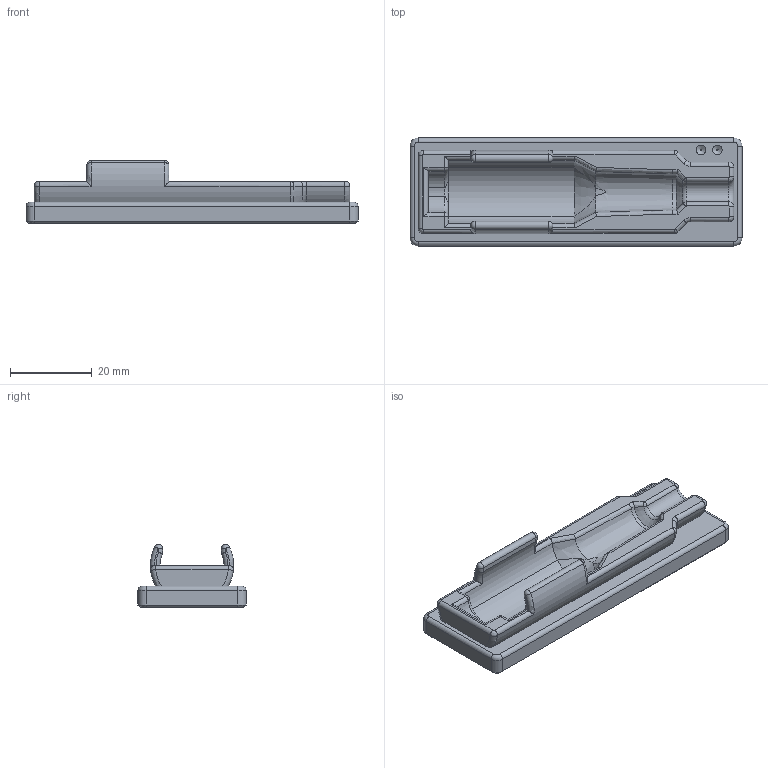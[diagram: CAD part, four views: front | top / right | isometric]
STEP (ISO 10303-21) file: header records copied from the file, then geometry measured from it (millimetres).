
FILE_DESCRIPTION(('Open CASCADE Model'),'2;1');
FILE_NAME('Open CASCADE Shape Model','2026-10-12T20:44:00',('Author'),( 'Open CASCADE'),'Open CASCADE STEP processor 8.0','build123d', 'Unknown');
FILE_SCHEMA(('AUTOMOTIVE_DESIGN { 1 0 10303 214 1 1 1 1 }'));
Length unit declared in the file: millimetre
Products named in the file (1): COMPOUND
Bounding box: 81.09 x 26.4 x 15.37 mm (x, y, z)
Volume: 14215.1 mm3; surface area: 7278.4 mm2
Topology: 1 solids, 1 shells, 143 faces, 343 edges, 199 vertices
Faces by surface type: cylinder 48, plane 28, torus 25, bspline 24, cone 14, sphere 4
Entity records: 14696 total; most frequent: CARTESIAN_POINT 8587, DIRECTION 965, ORIENTED_EDGE 674, PCURVE 674, DEFINITIONAL_REPRESENTATION 674, LINE 462, VECTOR 462, B_SPLINE_CURVE_WITH_KNOTS 349
